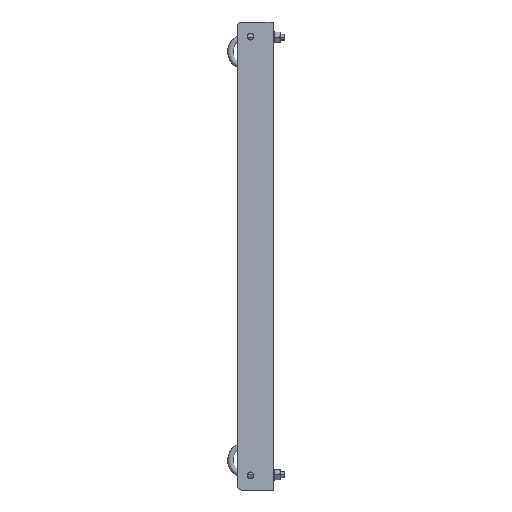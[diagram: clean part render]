
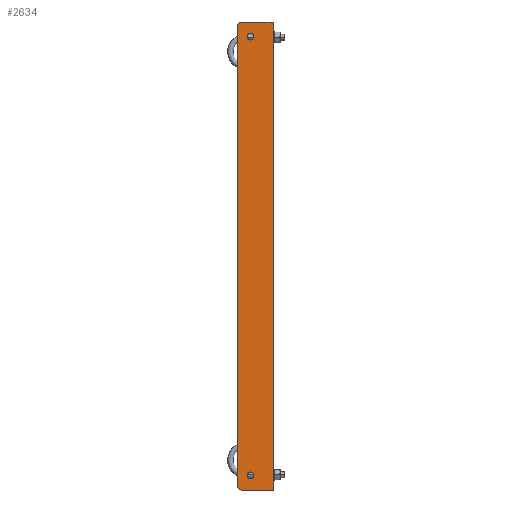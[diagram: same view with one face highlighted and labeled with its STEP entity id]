
A CAD part, left-side view. The second image highlights one B-rep face of the part: STEP entity #2634.
In plain terms, the highlighted planar face has unit normal (-1, 0, 0).
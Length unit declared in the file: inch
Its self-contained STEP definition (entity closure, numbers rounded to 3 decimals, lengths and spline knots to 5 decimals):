
#82 = FACE_BOUND ( 'NONE', #1008, .T. ) ;
#89 = FACE_BOUND ( 'NONE', #1017, .T. ) ;
#91 = FACE_OUTER_BOUND ( 'NONE', #1019, .T. ) ;
#244 = CARTESIAN_POINT ( 'NONE',  ( 0., 1.75, 0. ) ) ;
#246 = CARTESIAN_POINT ( 'NONE',  ( 0., 1.0625, -25.1875 ) ) ;
#252 = CARTESIAN_POINT ( 'NONE',  ( 0., 1.4375, -25.1875 ) ) ;
#259 = CARTESIAN_POINT ( 'NONE',  ( 0., 2., -0.25 ) ) ;
#260 = CARTESIAN_POINT ( 'NONE',  ( 0., 0., -26. ) ) ;
#276 = CARTESIAN_POINT ( 'NONE',  ( 0., 1.75, -26. ) ) ;
#328 = CARTESIAN_POINT ( 'NONE',  ( 0., 1.0625, -0.8125 ) ) ;
#568 = VECTOR ( 'NONE', #2241, 39.37008 ) ;
#569 = LINE ( 'NONE', #1835, #568 ) ;
#571 = VECTOR ( 'NONE', #2001, 39.37008 ) ;
#572 = LINE ( 'NONE', #1856, #571 ) ;
#575 = VECTOR ( 'NONE', #2200, 39.37008 ) ;
#577 = LINE ( 'NONE', #1847, #575 ) ;
#579 = CIRCLE ( 'NONE', #1507, 0.25 ) ;
#581 = CIRCLE ( 'NONE', #1509, 0.1875 ) ;
#586 = LINE ( 'NONE', #1986, #589 ) ;
#589 = VECTOR ( 'NONE', #1900, 39.37008 ) ;
#824 = DIRECTION ( 'NONE',  ( 0., -1., 0. ) ) ;
#827 = DIRECTION ( 'NONE',  ( -1., 0., 0. ) ) ;
#829 = PLANE ( 'NONE',  #1587 ) ;
#836 = CARTESIAN_POINT ( 'NONE',  ( 0., 2., -26. ) ) ;
#1008 = EDGE_LOOP ( 'NONE', ( #1283, #1284 ) ) ;
#1017 = EDGE_LOOP ( 'NONE', ( #1285, #1286 ) ) ;
#1019 = EDGE_LOOP ( 'NONE', ( #1288, #1289, #1290, #1292, #1295, #1296 ) ) ;
#1077 = DIRECTION ( 'NONE',  ( 0., 1., 0. ) ) ;
#1078 = DIRECTION ( 'NONE',  ( -1., 0., 0. ) ) ;
#1116 = CARTESIAN_POINT ( 'NONE',  ( 0., 1.25, -25.1875 ) ) ;
#1181 = CIRCLE ( 'NONE', #1534, 0.1875 ) ;
#1283 = ORIENTED_EDGE ( 'NONE', *, *, #1342, .F. ) ;
#1284 = ORIENTED_EDGE ( 'NONE', *, *, #1416, .F. ) ;
#1285 = ORIENTED_EDGE ( 'NONE', *, *, #1343, .F. ) ;
#1286 = ORIENTED_EDGE ( 'NONE', *, *, #1335, .F. ) ;
#1288 = ORIENTED_EDGE ( 'NONE', *, *, #1341, .F. ) ;
#1289 = ORIENTED_EDGE ( 'NONE', *, *, #1336, .T. ) ;
#1290 = ORIENTED_EDGE ( 'NONE', *, *, #1340, .T. ) ;
#1292 = ORIENTED_EDGE ( 'NONE', *, *, #1333, .T. ) ;
#1295 = ORIENTED_EDGE ( 'NONE', *, *, #1344, .F. ) ;
#1296 = ORIENTED_EDGE ( 'NONE', *, *, #1345, .T. ) ;
#1333 = EDGE_CURVE ( 'NONE', #2074, #2049, #586, .T. ) ;
#1335 = EDGE_CURVE ( 'NONE', #2064, #2211, #581, .T. ) ;
#1336 = EDGE_CURVE ( 'NONE', #2052, #2071, #579, .T. ) ;
#1340 = EDGE_CURVE ( 'NONE', #2071, #2074, #577, .T. ) ;
#1341 = EDGE_CURVE ( 'NONE', #2052, #2107, #572, .T. ) ;
#1342 = EDGE_CURVE ( 'NONE', #2084, #2072, #2684, .T. ) ;
#1343 = EDGE_CURVE ( 'NONE', #2211, #2064, #2683, .T. ) ;
#1344 = EDGE_CURVE ( 'NONE', #2082, #2049, #569, .T. ) ;
#1345 = EDGE_CURVE ( 'NONE', #2082, #2107, #2686, .T. ) ;
#1416 = EDGE_CURVE ( 'NONE', #2072, #2084, #1181, .T. ) ;
#1507 = AXIS2_PLACEMENT_3D ( 'NONE', #2145, #2088, #2101 ) ;
#1508 = AXIS2_PLACEMENT_3D ( 'NONE', #2085, #2140, #2021 ) ;
#1509 = AXIS2_PLACEMENT_3D ( 'NONE', #1869, #1867, #2008 ) ;
#1510 = AXIS2_PLACEMENT_3D ( 'NONE', #2143, #1998, #2243 ) ;
#1512 = AXIS2_PLACEMENT_3D ( 'NONE', #2014, #1855, #2125 ) ;
#1534 = AXIS2_PLACEMENT_3D ( 'NONE', #1116, #1078, #1077 ) ;
#1587 = AXIS2_PLACEMENT_3D ( 'NONE', #836, #827, #824 ) ;
#1759 = CARTESIAN_POINT ( 'NONE',  ( 0., 1.4375, -0.8125 ) ) ;
#1770 = CARTESIAN_POINT ( 'NONE',  ( 0., 2., -25.75 ) ) ;
#1774 = CARTESIAN_POINT ( 'NONE',  ( 0., 0., 0. ) ) ;
#1835 = CARTESIAN_POINT ( 'NONE',  ( 0., 2., 0. ) ) ;
#1847 = CARTESIAN_POINT ( 'NONE',  ( 0., 2., -26. ) ) ;
#1855 = DIRECTION ( 'NONE',  ( -1., 0., 0. ) ) ;
#1856 = CARTESIAN_POINT ( 'NONE',  ( 0., 2., -26. ) ) ;
#1867 = DIRECTION ( 'NONE',  ( -1., 0., 0. ) ) ;
#1869 = CARTESIAN_POINT ( 'NONE',  ( 0., 1.25, -0.8125 ) ) ;
#1900 = DIRECTION ( 'NONE',  ( 0., 0., 1. ) ) ;
#1986 = CARTESIAN_POINT ( 'NONE',  ( 0., 0., -26. ) ) ;
#1998 = DIRECTION ( 'NONE',  ( -1., 0., 0. ) ) ;
#2001 = DIRECTION ( 'NONE',  ( 0., 0., 1. ) ) ;
#2008 = DIRECTION ( 'NONE',  ( 0., -1., 0. ) ) ;
#2014 = CARTESIAN_POINT ( 'NONE',  ( 0., 1.25, -25.1875 ) ) ;
#2021 = DIRECTION ( 'NONE',  ( 0., -1., 0. ) ) ;
#2049 = VERTEX_POINT ( 'NONE', #1774 ) ;
#2052 = VERTEX_POINT ( 'NONE', #1770 ) ;
#2064 = VERTEX_POINT ( 'NONE', #1759 ) ;
#2071 = VERTEX_POINT ( 'NONE', #276 ) ;
#2072 = VERTEX_POINT ( 'NONE', #252 ) ;
#2074 = VERTEX_POINT ( 'NONE', #260 ) ;
#2082 = VERTEX_POINT ( 'NONE', #244 ) ;
#2084 = VERTEX_POINT ( 'NONE', #246 ) ;
#2085 = CARTESIAN_POINT ( 'NONE',  ( 0., 1.75, -0.25 ) ) ;
#2088 = DIRECTION ( 'NONE',  ( -1., 0., 0. ) ) ;
#2101 = DIRECTION ( 'NONE',  ( 0., -1., 0. ) ) ;
#2107 = VERTEX_POINT ( 'NONE', #259 ) ;
#2125 = DIRECTION ( 'NONE',  ( 0., 1., 0. ) ) ;
#2140 = DIRECTION ( 'NONE',  ( -1., 0., 0. ) ) ;
#2143 = CARTESIAN_POINT ( 'NONE',  ( 0., 1.25, -0.8125 ) ) ;
#2145 = CARTESIAN_POINT ( 'NONE',  ( 0., 1.75, -25.75 ) ) ;
#2200 = DIRECTION ( 'NONE',  ( 0., -1., 0. ) ) ;
#2211 = VERTEX_POINT ( 'NONE', #328 ) ;
#2241 = DIRECTION ( 'NONE',  ( 0., -1., 0. ) ) ;
#2243 = DIRECTION ( 'NONE',  ( 0., -1., 0. ) ) ;
#2634 = ADVANCED_FACE ( 'NONE', ( #82, #89, #91 ), #829, .T. ) ;
#2683 = CIRCLE ( 'NONE', #1510, 0.1875 ) ;
#2684 = CIRCLE ( 'NONE', #1512, 0.1875 ) ;
#2686 = CIRCLE ( 'NONE', #1508, 0.25 ) ;
